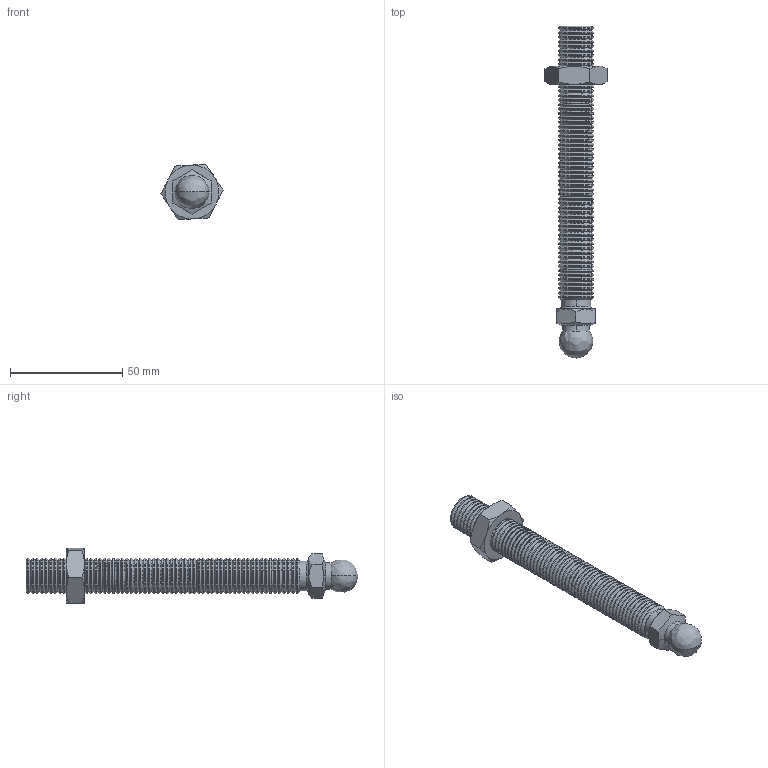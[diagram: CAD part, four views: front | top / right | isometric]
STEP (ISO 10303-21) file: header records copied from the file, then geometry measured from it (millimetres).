
FILE_DESCRIPTION (( 'STEP AP203' ), '1' );
FILE_NAME ('501455_Gewindestange mit Kugel M16x125.step', '2019-05-07T13:43:59', ( '' ), ( '' ), 'SwSTEP 2.0', 'SolidWorks 2017', '' );
FILE_SCHEMA (( 'CONFIG_CONTROL_DESIGN' ));
Length unit declared in the file: millimetre
Products named in the file (1): 501455_Gewindestange mit Kugel M16x125
Bounding box: 27.66 x 148 x 24.79 mm (x, y, z)
Volume: 31713.4 mm3; surface area: 14490.2 mm2
Topology: 5 solids, 5 shells, 490 faces, 1265 edges, 782 vertices
Faces by surface type: cone 312, cylinder 152, plane 22, bspline 4
Entity records: 15571 total; most frequent: CARTESIAN_POINT 3040, DIRECTION 2948, ORIENTED_EDGE 2522, EDGE_CURVE 1261, AXIS2_PLACEMENT_3D 1242, VERTEX_POINT 782, CIRCLE 755, EDGE_LOOP 493
